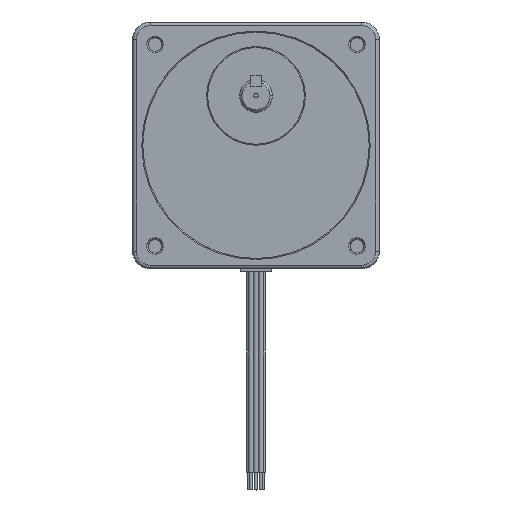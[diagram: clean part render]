
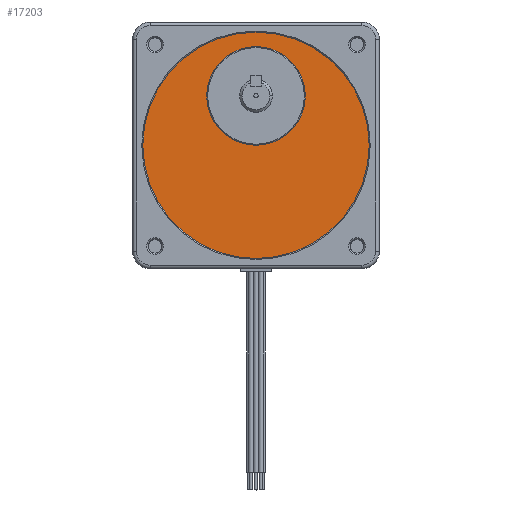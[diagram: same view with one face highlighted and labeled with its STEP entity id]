
A CAD part, top view. The second image highlights one B-rep face of the part: STEP entity #17203.
In plain terms, the highlighted planar face has unit normal (0, 0, 1).
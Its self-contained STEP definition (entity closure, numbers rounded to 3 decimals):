
#16854 = EDGE_CURVE ( 'NONE', #17110, #17063, #18152, .T. ) ;
#17042 = VERTEX_POINT ( 'NONE', #18590 ) ;
#17045 = VERTEX_POINT ( 'NONE', #18592 ) ;
#17063 = VERTEX_POINT ( 'NONE', #18783 ) ;
#17065 = EDGE_CURVE ( 'NONE', #17045, #17042, #18773, .T. ) ;
#17110 = VERTEX_POINT ( 'NONE', #18895 ) ;
#17174 = EDGE_CURVE ( 'NONE', #17042, #17045, #18974, .T. ) ;
#17175 = ORIENTED_EDGE ( 'NONE', *, *, #16854, .F. ) ;
#17180 = ORIENTED_EDGE ( 'NONE', *, *, #17174, .T. ) ;
#17184 = ORIENTED_EDGE ( 'NONE', *, *, #17065, .T. ) ;
#17185 = EDGE_LOOP ( 'NONE', ( #17180, #17184 ) ) ;
#17189 = EDGE_CURVE ( 'NONE', #17063, #17110, #19038, .T. ) ;
#17190 = EDGE_LOOP ( 'NONE', ( #17204, #17175 ) ) ;
#17203 = ADVANCED_FACE ( 'NONE', ( #18988, #19011 ), #19041, .T. ) ;
#17204 = ORIENTED_EDGE ( 'NONE', *, *, #17189, .F. ) ;
#18095 = DIRECTION ( 'NONE',  ( 1., 0., 0. ) ) ;
#18096 = DIRECTION ( 'NONE',  ( 0., 0., 1. ) ) ;
#18097 = CARTESIAN_POINT ( 'NONE',  ( 0., 18.009, 59. ) ) ;
#18152 = CIRCLE ( 'NONE', #18153, 17.996 ) ;
#18153 = AXIS2_PLACEMENT_3D ( 'NONE', #18097, #18096, #18095 ) ;
#18590 = CARTESIAN_POINT ( 'NONE',  ( 41.275, 0., 59. ) ) ;
#18592 = CARTESIAN_POINT ( 'NONE',  ( -41.275, 0., 59. ) ) ;
#18773 = CIRCLE ( 'NONE', #18794, 41.275 ) ;
#18783 = CARTESIAN_POINT ( 'NONE',  ( -17.996, 18.009, 59. ) ) ;
#18791 = DIRECTION ( 'NONE',  ( 1., 0., 0. ) ) ;
#18792 = DIRECTION ( 'NONE',  ( 0., 0., 1. ) ) ;
#18793 = CARTESIAN_POINT ( 'NONE',  ( 0., 0., 59. ) ) ;
#18794 = AXIS2_PLACEMENT_3D ( 'NONE', #18793, #18792, #18791 ) ;
#18895 = CARTESIAN_POINT ( 'NONE',  ( 17.996, 18.009, 59. ) ) ;
#18929 = DIRECTION ( 'NONE',  ( 1., 0., 0. ) ) ;
#18931 = CARTESIAN_POINT ( 'NONE',  ( 0., 18.009, 59. ) ) ;
#18935 = AXIS2_PLACEMENT_3D ( 'NONE', #18968, #18967, #18966 ) ;
#18966 = DIRECTION ( 'NONE',  ( 1., 0., 0. ) ) ;
#18967 = DIRECTION ( 'NONE',  ( 0., 0., 1. ) ) ;
#18968 = CARTESIAN_POINT ( 'NONE',  ( 0., 0., 59. ) ) ;
#18974 = CIRCLE ( 'NONE', #18935, 41.275 ) ;
#18988 = FACE_OUTER_BOUND ( 'NONE', #17185, .T. ) ;
#19000 = DIRECTION ( 'NONE',  ( 0., 0., 1. ) ) ;
#19011 = FACE_BOUND ( 'NONE', #17190, .T. ) ;
#19032 = AXIS2_PLACEMENT_3D ( 'NONE', #18931, #19000, #18929 ) ;
#19038 = CIRCLE ( 'NONE', #19032, 17.996 ) ;
#19041 = PLANE ( 'NONE',  #19091 ) ;
#19042 = CARTESIAN_POINT ( 'NONE',  ( 0., 0., 59. ) ) ;
#19052 = DIRECTION ( 'NONE',  ( 1., 0., 0. ) ) ;
#19060 = DIRECTION ( 'NONE',  ( 0., 0., 1. ) ) ;
#19091 = AXIS2_PLACEMENT_3D ( 'NONE', #19042, #19060, #19052 ) ;
